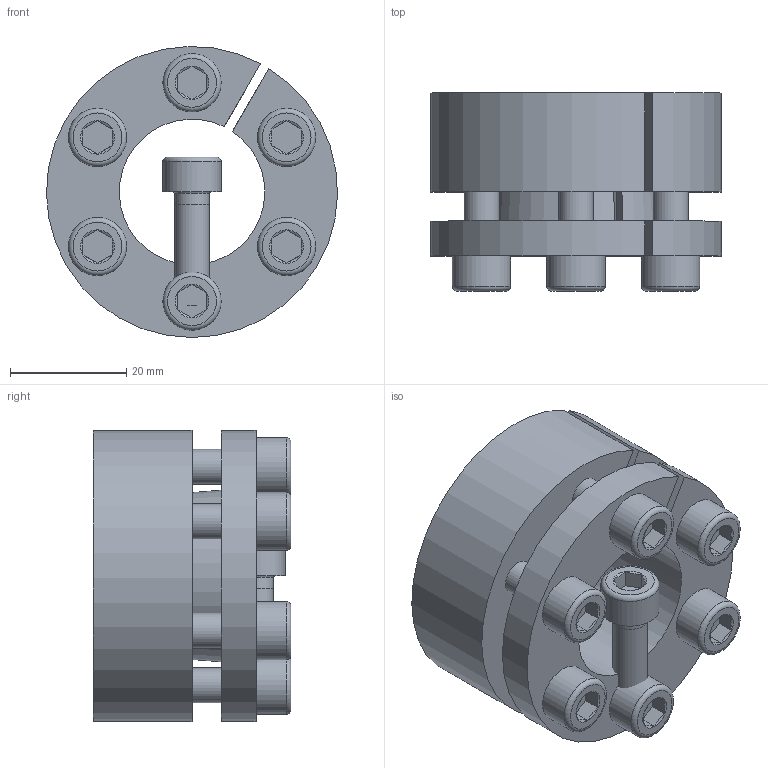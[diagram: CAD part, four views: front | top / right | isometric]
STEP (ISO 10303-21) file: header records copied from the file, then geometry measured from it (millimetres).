
FILE_DESCRIPTION( ( 'Unknown' ), '1' );
FILE_NAME( 'C:/Dokumente und Einstellungen/Sven/Desktop/homepage/cad - homepage/KBS13/KBS 13 - 25 x 50.stp', 'Unknown', ( 'Unknown' ), ( 'Unknown' ), 'XStep 1.0', 'Unknown', ' ' );
FILE_SCHEMA( ( 'automotive_design' ) );
Length unit declared in the file: millimetre
Products named in the file (3): Assem1; KBS 13 - 25 x 50; ISO EN DIN 4762 M6x20
Bounding box: 49.99 x 34 x 49.99 mm (x, y, z)
Volume: 67166.2 mm3; surface area: 33783.6 mm2
Topology: 9 solids, 9 shells, 223 faces, 457 edges, 280 vertices
Faces by surface type: plane 98, cylinder 58, cone 53, torus 14
Full cylindrical faces by diameter (mm): 5 x7, 6 x38, 10 x7
Entity records: 1618 total; most frequent: CARTESIAN_POINT 271, DIRECTION 244, ORIENTED_EDGE 178, AXIS2_PLACEMENT_3D 108, EDGE_LOOP 96, EDGE_CURVE 89, FACE_OUTER_BOUND 67, VERTEX_POINT 67
